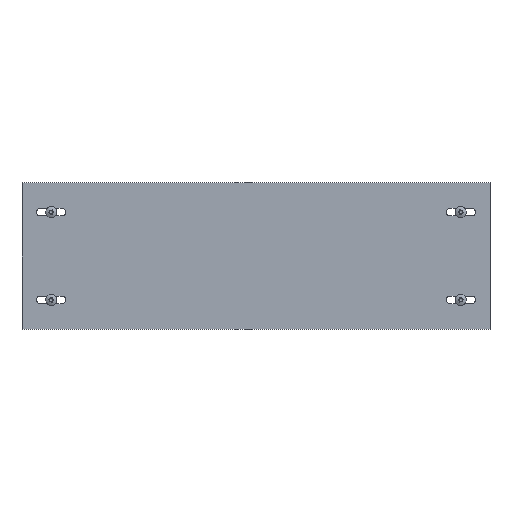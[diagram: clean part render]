
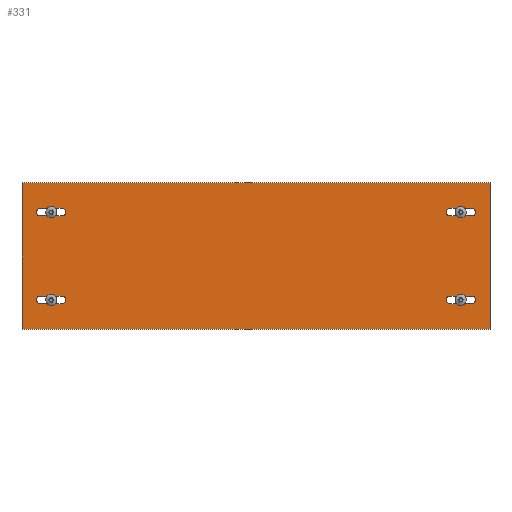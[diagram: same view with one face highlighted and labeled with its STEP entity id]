
A CAD part, top view. The second image highlights one B-rep face of the part: STEP entity #331.
In plain terms, the highlighted planar face has unit normal (0, 0, 1).
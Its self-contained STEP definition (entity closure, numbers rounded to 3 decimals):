
#55 = EDGE_CURVE('',#56,#58,#60,.T.);
#56 = VERTEX_POINT('',#57);
#57 = CARTESIAN_POINT('',(-200.,62.5,0.));
#58 = VERTEX_POINT('',#59);
#59 = CARTESIAN_POINT('',(-200.,-62.5,0.));
#60 = LINE('',#61,#62);
#61 = CARTESIAN_POINT('',(-200.,-62.5,0.));
#62 = VECTOR('',#63,1.);
#63 = DIRECTION('',(-0.,-1.,-0.));
#95 = EDGE_CURVE('',#96,#56,#98,.T.);
#96 = VERTEX_POINT('',#97);
#97 = CARTESIAN_POINT('',(200.,62.5,0.));
#98 = LINE('',#99,#100);
#99 = CARTESIAN_POINT('',(200.,62.5,0.));
#100 = VECTOR('',#101,1.);
#101 = DIRECTION('',(-1.,0.,0.));
#126 = EDGE_CURVE('',#127,#96,#129,.T.);
#127 = VERTEX_POINT('',#128);
#128 = CARTESIAN_POINT('',(200.,-62.5,0.));
#129 = LINE('',#130,#131);
#130 = CARTESIAN_POINT('',(200.,-62.5,0.));
#131 = VECTOR('',#132,1.);
#132 = DIRECTION('',(0.,1.,0.));
#157 = EDGE_CURVE('',#58,#127,#158,.T.);
#158 = LINE('',#159,#160);
#159 = CARTESIAN_POINT('',(200.,-62.5,0.));
#160 = VECTOR('',#161,1.);
#161 = DIRECTION('',(1.,0.,-0.));
#331 = ADVANCED_FACE('',(#332,#368,#404,#440,#476),#482,.T.);
#332 = FACE_BOUND('',#333,.T.);
#333 = EDGE_LOOP('',(#334,#345,#353,#362));
#334 = ORIENTED_EDGE('',*,*,#335,.F.);
#335 = EDGE_CURVE('',#336,#338,#340,.T.);
#336 = VERTEX_POINT('',#337);
#337 = CARTESIAN_POINT('',(-165.75,-40.75,0.));
#338 = VERTEX_POINT('',#339);
#339 = CARTESIAN_POINT('',(-165.75,-34.25,0.));
#340 = CIRCLE('',#341,3.25);
#341 = AXIS2_PLACEMENT_3D('',#342,#343,#344);
#342 = CARTESIAN_POINT('',(-165.75,-37.5,0.));
#343 = DIRECTION('',(0.,0.,1.));
#344 = DIRECTION('',(1.,0.,-0.));
#345 = ORIENTED_EDGE('',*,*,#346,.F.);
#346 = EDGE_CURVE('',#347,#336,#349,.T.);
#347 = VERTEX_POINT('',#348);
#348 = CARTESIAN_POINT('',(-184.25,-40.75,0.));
#349 = LINE('',#350,#351);
#350 = CARTESIAN_POINT('',(-165.75,-40.75,0.));
#351 = VECTOR('',#352,1.);
#352 = DIRECTION('',(1.,-0.,-0.));
#353 = ORIENTED_EDGE('',*,*,#354,.F.);
#354 = EDGE_CURVE('',#355,#347,#357,.T.);
#355 = VERTEX_POINT('',#356);
#356 = CARTESIAN_POINT('',(-184.25,-34.25,0.));
#357 = CIRCLE('',#358,3.25);
#358 = AXIS2_PLACEMENT_3D('',#359,#360,#361);
#359 = CARTESIAN_POINT('',(-184.25,-37.5,0.));
#360 = DIRECTION('',(0.,0.,1.));
#361 = DIRECTION('',(1.,0.,-0.));
#362 = ORIENTED_EDGE('',*,*,#363,.F.);
#363 = EDGE_CURVE('',#338,#355,#364,.T.);
#364 = LINE('',#365,#366);
#365 = CARTESIAN_POINT('',(-165.75,-34.25,0.));
#366 = VECTOR('',#367,1.);
#367 = DIRECTION('',(-1.,0.,0.));
#368 = FACE_BOUND('',#369,.T.);
#369 = EDGE_LOOP('',(#370,#381,#389,#398));
#370 = ORIENTED_EDGE('',*,*,#371,.F.);
#371 = EDGE_CURVE('',#372,#374,#376,.T.);
#372 = VERTEX_POINT('',#373);
#373 = CARTESIAN_POINT('',(-165.75,34.25,0.));
#374 = VERTEX_POINT('',#375);
#375 = CARTESIAN_POINT('',(-165.75,40.75,0.));
#376 = CIRCLE('',#377,3.25);
#377 = AXIS2_PLACEMENT_3D('',#378,#379,#380);
#378 = CARTESIAN_POINT('',(-165.75,37.5,0.));
#379 = DIRECTION('',(0.,0.,1.));
#380 = DIRECTION('',(-1.,0.,0.));
#381 = ORIENTED_EDGE('',*,*,#382,.F.);
#382 = EDGE_CURVE('',#383,#372,#385,.T.);
#383 = VERTEX_POINT('',#384);
#384 = CARTESIAN_POINT('',(-184.25,34.25,0.));
#385 = LINE('',#386,#387);
#386 = CARTESIAN_POINT('',(-165.75,34.25,0.));
#387 = VECTOR('',#388,1.);
#388 = DIRECTION('',(1.,-0.,-0.));
#389 = ORIENTED_EDGE('',*,*,#390,.F.);
#390 = EDGE_CURVE('',#391,#383,#393,.T.);
#391 = VERTEX_POINT('',#392);
#392 = CARTESIAN_POINT('',(-184.25,40.75,0.));
#393 = CIRCLE('',#394,3.25);
#394 = AXIS2_PLACEMENT_3D('',#395,#396,#397);
#395 = CARTESIAN_POINT('',(-184.25,37.5,0.));
#396 = DIRECTION('',(0.,0.,1.));
#397 = DIRECTION('',(-1.,0.,0.));
#398 = ORIENTED_EDGE('',*,*,#399,.F.);
#399 = EDGE_CURVE('',#374,#391,#400,.T.);
#400 = LINE('',#401,#402);
#401 = CARTESIAN_POINT('',(-165.75,40.75,0.));
#402 = VECTOR('',#403,1.);
#403 = DIRECTION('',(-1.,0.,0.));
#404 = FACE_BOUND('',#405,.T.);
#405 = EDGE_LOOP('',(#406,#417,#425,#434));
#406 = ORIENTED_EDGE('',*,*,#407,.F.);
#407 = EDGE_CURVE('',#408,#410,#412,.T.);
#408 = VERTEX_POINT('',#409);
#409 = CARTESIAN_POINT('',(165.75,40.75,0.));
#410 = VERTEX_POINT('',#411);
#411 = CARTESIAN_POINT('',(165.75,34.25,0.));
#412 = CIRCLE('',#413,3.25);
#413 = AXIS2_PLACEMENT_3D('',#414,#415,#416);
#414 = CARTESIAN_POINT('',(165.75,37.5,0.));
#415 = DIRECTION('',(0.,0.,1.));
#416 = DIRECTION('',(1.,0.,-0.));
#417 = ORIENTED_EDGE('',*,*,#418,.F.);
#418 = EDGE_CURVE('',#419,#408,#421,.T.);
#419 = VERTEX_POINT('',#420);
#420 = CARTESIAN_POINT('',(184.25,40.75,0.));
#421 = LINE('',#422,#423);
#422 = CARTESIAN_POINT('',(165.75,40.75,0.));
#423 = VECTOR('',#424,1.);
#424 = DIRECTION('',(-1.,-0.,-0.));
#425 = ORIENTED_EDGE('',*,*,#426,.F.);
#426 = EDGE_CURVE('',#427,#419,#429,.T.);
#427 = VERTEX_POINT('',#428);
#428 = CARTESIAN_POINT('',(184.25,34.25,0.));
#429 = CIRCLE('',#430,3.25);
#430 = AXIS2_PLACEMENT_3D('',#431,#432,#433);
#431 = CARTESIAN_POINT('',(184.25,37.5,0.));
#432 = DIRECTION('',(0.,0.,1.));
#433 = DIRECTION('',(1.,0.,-0.));
#434 = ORIENTED_EDGE('',*,*,#435,.F.);
#435 = EDGE_CURVE('',#410,#427,#436,.T.);
#436 = LINE('',#437,#438);
#437 = CARTESIAN_POINT('',(165.75,34.25,0.));
#438 = VECTOR('',#439,1.);
#439 = DIRECTION('',(1.,0.,0.));
#440 = FACE_BOUND('',#441,.T.);
#441 = EDGE_LOOP('',(#442,#453,#461,#470));
#442 = ORIENTED_EDGE('',*,*,#443,.F.);
#443 = EDGE_CURVE('',#444,#446,#448,.T.);
#444 = VERTEX_POINT('',#445);
#445 = CARTESIAN_POINT('',(165.75,-34.25,0.));
#446 = VERTEX_POINT('',#447);
#447 = CARTESIAN_POINT('',(165.75,-40.75,0.));
#448 = CIRCLE('',#449,3.25);
#449 = AXIS2_PLACEMENT_3D('',#450,#451,#452);
#450 = CARTESIAN_POINT('',(165.75,-37.5,0.));
#451 = DIRECTION('',(0.,0.,1.));
#452 = DIRECTION('',(-1.,0.,0.));
#453 = ORIENTED_EDGE('',*,*,#454,.F.);
#454 = EDGE_CURVE('',#455,#444,#457,.T.);
#455 = VERTEX_POINT('',#456);
#456 = CARTESIAN_POINT('',(184.25,-34.25,0.));
#457 = LINE('',#458,#459);
#458 = CARTESIAN_POINT('',(165.75,-34.25,0.));
#459 = VECTOR('',#460,1.);
#460 = DIRECTION('',(-1.,-0.,-0.));
#461 = ORIENTED_EDGE('',*,*,#462,.F.);
#462 = EDGE_CURVE('',#463,#455,#465,.T.);
#463 = VERTEX_POINT('',#464);
#464 = CARTESIAN_POINT('',(184.25,-40.75,0.));
#465 = CIRCLE('',#466,3.25);
#466 = AXIS2_PLACEMENT_3D('',#467,#468,#469);
#467 = CARTESIAN_POINT('',(184.25,-37.5,0.));
#468 = DIRECTION('',(0.,0.,1.));
#469 = DIRECTION('',(-1.,0.,0.));
#470 = ORIENTED_EDGE('',*,*,#471,.F.);
#471 = EDGE_CURVE('',#446,#463,#472,.T.);
#472 = LINE('',#473,#474);
#473 = CARTESIAN_POINT('',(165.75,-40.75,0.));
#474 = VECTOR('',#475,1.);
#475 = DIRECTION('',(1.,0.,0.));
#476 = FACE_BOUND('',#477,.T.);
#477 = EDGE_LOOP('',(#478,#479,#480,#481));
#478 = ORIENTED_EDGE('',*,*,#55,.T.);
#479 = ORIENTED_EDGE('',*,*,#157,.T.);
#480 = ORIENTED_EDGE('',*,*,#126,.T.);
#481 = ORIENTED_EDGE('',*,*,#95,.T.);
#482 = PLANE('',#483);
#483 = AXIS2_PLACEMENT_3D('',#484,#485,#486);
#484 = CARTESIAN_POINT('',(0.,0.,0.));
#485 = DIRECTION('',(0.,-0.,1.));
#486 = DIRECTION('',(1.,0.,0.));
